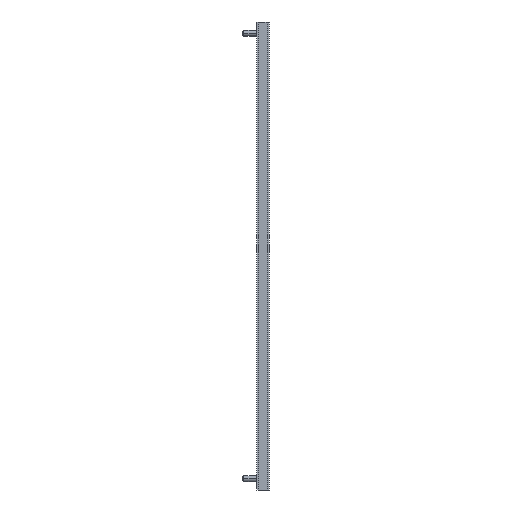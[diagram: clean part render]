
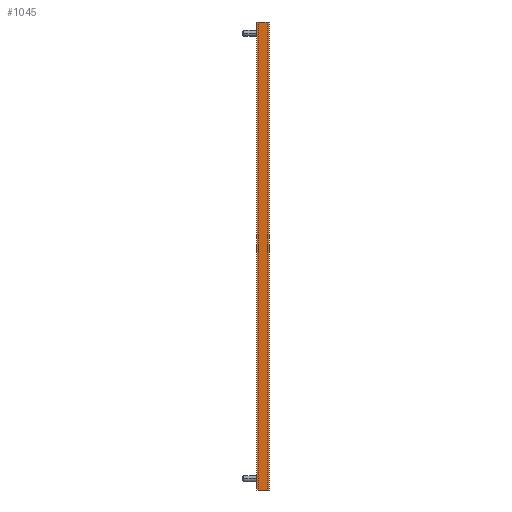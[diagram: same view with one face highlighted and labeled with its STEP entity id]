
A CAD part, left-side view. The second image highlights one B-rep face of the part: STEP entity #1045.
In plain terms, the highlighted planar face has unit normal (-1, 0, 0).
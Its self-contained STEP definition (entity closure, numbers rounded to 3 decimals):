
#30 = LINE ( 'NONE', #1056, #2276 ) ;
#64 = EDGE_CURVE ( 'NONE', #2792, #3206, #3275, .T. ) ;
#158 = CARTESIAN_POINT ( 'NONE',  ( -8., 12.5, 0. ) ) ;
#215 = PLANE ( 'NONE',  #2867 ) ;
#253 = ORIENTED_EDGE ( 'NONE', *, *, #1497, .T. ) ;
#349 = VECTOR ( 'NONE', #3907, 1000. ) ;
#365 = ORIENTED_EDGE ( 'NONE', *, *, #2851, .T. ) ;
#464 = CARTESIAN_POINT ( 'NONE',  ( -8., 0., 0. ) ) ;
#557 = DIRECTION ( 'NONE',  ( 0., -1., 0. ) ) ;
#612 = LINE ( 'NONE', #3112, #3523 ) ;
#661 = EDGE_CURVE ( 'NONE', #3124, #1535, #918, .T. ) ;
#755 = DIRECTION ( 'NONE',  ( 0., 1., 0. ) ) ;
#758 = VECTOR ( 'NONE', #3719, 1000. ) ;
#791 = EDGE_CURVE ( 'NONE', #2679, #1654, #30, .T. ) ;
#918 = LINE ( 'NONE', #2296, #758 ) ;
#1036 = VECTOR ( 'NONE', #557, 1000. ) ;
#1045 = ADVANCED_FACE ( 'NONE', ( #1920 ), #215, .T. ) ;
#1056 = CARTESIAN_POINT ( 'NONE',  ( -8., 0., 479. ) ) ;
#1057 = LINE ( 'NONE', #2847, #1241 ) ;
#1110 = CARTESIAN_POINT ( 'NONE',  ( -8., 0., 479. ) ) ;
#1132 = LINE ( 'NONE', #1110, #349 ) ;
#1222 = CARTESIAN_POINT ( 'NONE',  ( -8., 12.5, 479. ) ) ;
#1238 = DIRECTION ( 'NONE',  ( -1., 0., 0. ) ) ;
#1241 = VECTOR ( 'NONE', #4193, 1000. ) ;
#1270 = DIRECTION ( 'NONE',  ( 0., -1., 0. ) ) ;
#1392 = ORIENTED_EDGE ( 'NONE', *, *, #2157, .F. ) ;
#1462 = ORIENTED_EDGE ( 'NONE', *, *, #64, .T. ) ;
#1497 = EDGE_CURVE ( 'NONE', #4002, #2679, #1132, .T. ) ;
#1535 = VERTEX_POINT ( 'NONE', #1222 ) ;
#1547 = VERTEX_POINT ( 'NONE', #2011 ) ;
#1589 = CARTESIAN_POINT ( 'NONE',  ( -8., 0., 0. ) ) ;
#1651 = ORIENTED_EDGE ( 'NONE', *, *, #661, .F. ) ;
#1654 = VERTEX_POINT ( 'NONE', #2763 ) ;
#1844 = LINE ( 'NONE', #3687, #1036 ) ;
#1850 = CARTESIAN_POINT ( 'NONE',  ( -8., 0., 0. ) ) ;
#1920 = FACE_OUTER_BOUND ( 'NONE', #2611, .T. ) ;
#1944 = CARTESIAN_POINT ( 'NONE',  ( -8., 0., 479. ) ) ;
#2011 = CARTESIAN_POINT ( 'NONE',  ( -8., 9.3, 0. ) ) ;
#2013 = LINE ( 'NONE', #1589, #2917 ) ;
#2157 = EDGE_CURVE ( 'NONE', #1535, #1654, #1057, .T. ) ;
#2276 = VECTOR ( 'NONE', #755, 1000. ) ;
#2296 = CARTESIAN_POINT ( 'NONE',  ( -8., 12.5, 479. ) ) ;
#2577 = VECTOR ( 'NONE', #1270, 1000. ) ;
#2611 = EDGE_LOOP ( 'NONE', ( #1651, #365, #4102, #1462, #2796, #253, #2961, #1392 ) ) ;
#2618 = DIRECTION ( 'NONE',  ( 0., 0., 1. ) ) ;
#2627 = DIRECTION ( 'NONE',  ( 0., -1., 0. ) ) ;
#2679 = VERTEX_POINT ( 'NONE', #4305 ) ;
#2739 = CARTESIAN_POINT ( 'NONE',  ( -8., 0., 479. ) ) ;
#2763 = CARTESIAN_POINT ( 'NONE',  ( -8., 9.3, 479. ) ) ;
#2792 = VERTEX_POINT ( 'NONE', #4405 ) ;
#2796 = ORIENTED_EDGE ( 'NONE', *, *, #4442, .T. ) ;
#2847 = CARTESIAN_POINT ( 'NONE',  ( -8., 12.5, 479. ) ) ;
#2851 = EDGE_CURVE ( 'NONE', #3124, #1547, #2013, .T. ) ;
#2867 = AXIS2_PLACEMENT_3D ( 'NONE', #1944, #1238, #2618 ) ;
#2917 = VECTOR ( 'NONE', #2627, 1000. ) ;
#2961 = ORIENTED_EDGE ( 'NONE', *, *, #791, .T. ) ;
#3112 = CARTESIAN_POINT ( 'NONE',  ( -8., 0., 479. ) ) ;
#3124 = VERTEX_POINT ( 'NONE', #158 ) ;
#3206 = VERTEX_POINT ( 'NONE', #1850 ) ;
#3275 = LINE ( 'NONE', #464, #2577 ) ;
#3523 = VECTOR ( 'NONE', #3830, 1000. ) ;
#3628 = EDGE_CURVE ( 'NONE', #1547, #2792, #1844, .T. ) ;
#3687 = CARTESIAN_POINT ( 'NONE',  ( -8., 0., 0. ) ) ;
#3719 = DIRECTION ( 'NONE',  ( 0., 0., 1. ) ) ;
#3830 = DIRECTION ( 'NONE',  ( 0., 0., 1. ) ) ;
#3907 = DIRECTION ( 'NONE',  ( 0., 1., 0. ) ) ;
#4002 = VERTEX_POINT ( 'NONE', #2739 ) ;
#4102 = ORIENTED_EDGE ( 'NONE', *, *, #3628, .T. ) ;
#4193 = DIRECTION ( 'NONE',  ( 0., -1., 0. ) ) ;
#4305 = CARTESIAN_POINT ( 'NONE',  ( -8., 3.2, 479. ) ) ;
#4405 = CARTESIAN_POINT ( 'NONE',  ( -8., 3.2, 0. ) ) ;
#4442 = EDGE_CURVE ( 'NONE', #3206, #4002, #612, .T. ) ;
